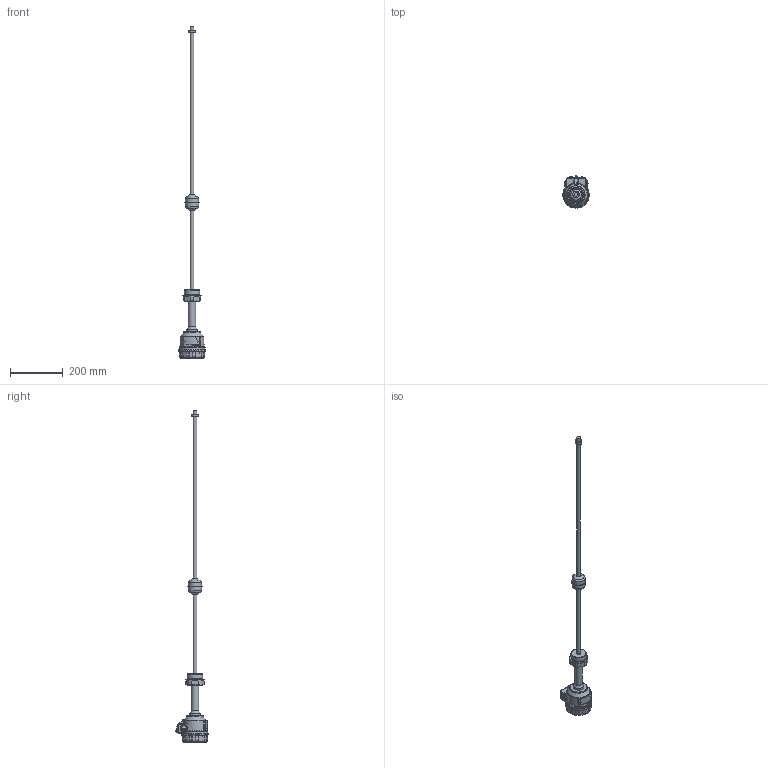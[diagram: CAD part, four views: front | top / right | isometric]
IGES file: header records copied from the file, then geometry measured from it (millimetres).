
Global section: file name: M_RK_Aszer_2col; native system: Autodesk Inventor 2015; preprocessor: unknown; author: aantal; date: 20150306.112148; units: millimetre
Bounding box: 100 x 122.55 x 1262 mm (x, y, z)
Volume: 1086794.1 mm3; surface area: 175368.6 mm2
Topology: 15 solids, 15 shells, 1207 faces, 3053 edges, 1923 vertices
Faces by surface type: bspline 1207
